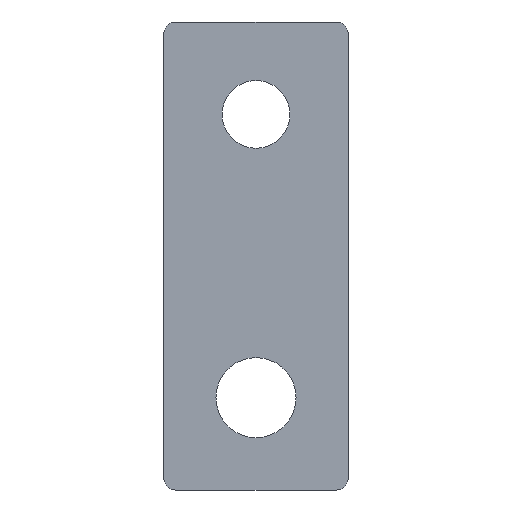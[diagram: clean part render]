
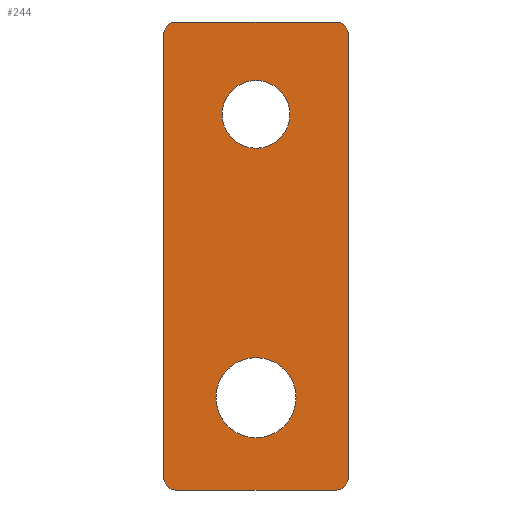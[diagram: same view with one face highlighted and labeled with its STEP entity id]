
A CAD part, front view. The second image highlights one B-rep face of the part: STEP entity #244.
In plain terms, the highlighted planar face has unit normal (0, -1, 0).
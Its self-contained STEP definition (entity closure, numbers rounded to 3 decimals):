
#1=CARTESIAN_POINT('',(0.,0.,0.));
#2=DIRECTION('',(0.,-1.,0.));
#3=DIRECTION('',(1.,0.,0.));
#4=AXIS2_PLACEMENT_3D('',#1,#2,#3);
#6=CARTESIAN_POINT('',(0.,0.,0.));
#7=DIRECTION('',(0.,-1.,0.));
#8=DIRECTION('',(-1.,0.,0.));
#9=AXIS2_PLACEMENT_3D('',#6,#7,#8);
#11=CARTESIAN_POINT('',(0.,0.,-46.));
#12=DIRECTION('',(0.,-1.,0.));
#13=DIRECTION('',(1.,0.,0.));
#14=AXIS2_PLACEMENT_3D('',#11,#12,#13);
#16=CARTESIAN_POINT('',(0.,0.,-46.));
#17=DIRECTION('',(0.,-1.,0.));
#18=DIRECTION('',(-1.,0.,0.));
#19=AXIS2_PLACEMENT_3D('',#16,#17,#18);
#21=DIRECTION('',(0.,0.,1.));
#22=VECTOR('',#21,72.);
#23=CARTESIAN_POINT('',(-15.,0.,-59.));
#24=LINE('',#23,#22);
#25=CARTESIAN_POINT('',(-13.,0.,13.));
#26=DIRECTION('',(0.,-1.,0.));
#27=DIRECTION('',(0.,0.,1.));
#28=AXIS2_PLACEMENT_3D('',#25,#26,#27);
#30=DIRECTION('',(1.,0.,0.));
#31=VECTOR('',#30,26.);
#32=CARTESIAN_POINT('',(-13.,0.,15.));
#33=LINE('',#32,#31);
#34=CARTESIAN_POINT('',(13.,0.,13.));
#35=DIRECTION('',(0.,-1.,0.));
#36=DIRECTION('',(1.,0.,0.));
#37=AXIS2_PLACEMENT_3D('',#34,#35,#36);
#39=DIRECTION('',(0.,0.,-1.));
#40=VECTOR('',#39,72.);
#41=CARTESIAN_POINT('',(15.,0.,13.));
#42=LINE('',#41,#40);
#43=CARTESIAN_POINT('',(13.,0.,-59.));
#44=DIRECTION('',(0.,-1.,0.));
#45=DIRECTION('',(0.,0.,-1.));
#46=AXIS2_PLACEMENT_3D('',#43,#44,#45);
#48=DIRECTION('',(-1.,0.,0.));
#49=VECTOR('',#48,26.);
#50=CARTESIAN_POINT('',(13.,0.,-61.));
#51=LINE('',#50,#49);
#52=CARTESIAN_POINT('',(-13.,0.,-59.));
#53=DIRECTION('',(0.,-1.,0.));
#54=DIRECTION('',(-1.,0.,0.));
#55=AXIS2_PLACEMENT_3D('',#52,#53,#54);
#161=CARTESIAN_POINT('',(5.5,0.,0.));
#162=CARTESIAN_POINT('',(-5.5,0.,0.));
#163=VERTEX_POINT('',#161);
#164=VERTEX_POINT('',#162);
#165=CARTESIAN_POINT('',(6.5,0.,-46.));
#166=CARTESIAN_POINT('',(-6.5,0.,-46.));
#167=VERTEX_POINT('',#165);
#168=VERTEX_POINT('',#166);
#177=CARTESIAN_POINT('',(-15.,0.,-59.));
#178=CARTESIAN_POINT('',(-15.,0.,13.));
#179=VERTEX_POINT('',#177);
#180=VERTEX_POINT('',#178);
#185=CARTESIAN_POINT('',(-13.,0.,15.));
#186=VERTEX_POINT('',#185);
#189=CARTESIAN_POINT('',(15.,0.,13.));
#190=CARTESIAN_POINT('',(13.,0.,15.));
#191=VERTEX_POINT('',#189);
#192=VERTEX_POINT('',#190);
#197=CARTESIAN_POINT('',(15.,0.,-59.));
#198=VERTEX_POINT('',#197);
#199=CARTESIAN_POINT('',(13.,0.,-61.));
#200=CARTESIAN_POINT('',(-13.,0.,-61.));
#201=VERTEX_POINT('',#199);
#202=VERTEX_POINT('',#200);
#209=CARTESIAN_POINT('',(0.,0.,0.));
#210=DIRECTION('',(0.,1.,0.));
#211=DIRECTION('',(1.,0.,0.));
#212=AXIS2_PLACEMENT_3D('',#209,#210,#211);
#213=PLANE('',#212);
#215=ORIENTED_EDGE('',*,*,#214,.T.);
#217=ORIENTED_EDGE('',*,*,#216,.F.);
#219=ORIENTED_EDGE('',*,*,#218,.T.);
#221=ORIENTED_EDGE('',*,*,#220,.F.);
#223=ORIENTED_EDGE('',*,*,#222,.T.);
#225=ORIENTED_EDGE('',*,*,#224,.F.);
#227=ORIENTED_EDGE('',*,*,#226,.T.);
#229=ORIENTED_EDGE('',*,*,#228,.F.);
#230=EDGE_LOOP('',(#215,#217,#219,#221,#223,#225,#227,#229));
#231=FACE_OUTER_BOUND('',#230,.F.);
#233=ORIENTED_EDGE('',*,*,#232,.T.);
#235=ORIENTED_EDGE('',*,*,#234,.T.);
#236=EDGE_LOOP('',(#233,#235));
#237=FACE_BOUND('',#236,.F.);
#239=ORIENTED_EDGE('',*,*,#238,.T.);
#241=ORIENTED_EDGE('',*,*,#240,.T.);
#242=EDGE_LOOP('',(#239,#241));
#243=FACE_BOUND('',#242,.F.);
#244=ADVANCED_FACE('',(#231,#237,#243),#213,.F.);
#5=CIRCLE('',#4,5.5);
#10=CIRCLE('',#9,5.5);
#15=CIRCLE('',#14,6.5);
#20=CIRCLE('',#19,6.5);
#29=CIRCLE('',#28,2.);
#38=CIRCLE('',#37,2.);
#47=CIRCLE('',#46,2.);
#56=CIRCLE('',#55,2.);
#214=EDGE_CURVE('',#179,#180,#24,.T.);
#216=EDGE_CURVE('',#186,#180,#29,.T.);
#218=EDGE_CURVE('',#186,#192,#33,.T.);
#220=EDGE_CURVE('',#191,#192,#38,.T.);
#222=EDGE_CURVE('',#191,#198,#42,.T.);
#224=EDGE_CURVE('',#201,#198,#47,.T.);
#226=EDGE_CURVE('',#201,#202,#51,.T.);
#228=EDGE_CURVE('',#179,#202,#56,.T.);
#232=EDGE_CURVE('',#163,#164,#5,.T.);
#234=EDGE_CURVE('',#164,#163,#10,.T.);
#238=EDGE_CURVE('',#167,#168,#15,.T.);
#240=EDGE_CURVE('',#168,#167,#20,.T.);
